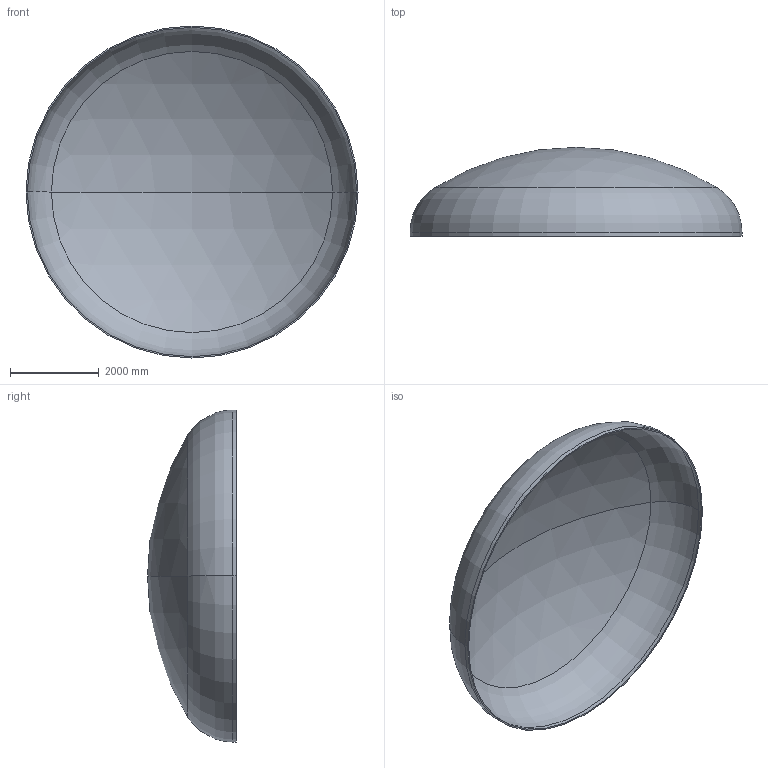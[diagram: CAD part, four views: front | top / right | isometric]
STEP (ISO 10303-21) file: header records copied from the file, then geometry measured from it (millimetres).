
FILE_DESCRIPTION (( 'STEP AP203' ), '1' );
FILE_NAME ('DIN 28013 Korbbogenform_-_Boden DIN 28013 - 7500 x 90 - I - s=30.step', '2016-07-04T10:52:54', ( '' ), ( '' ), 'SwSTEP 2.0', 'SolidWorks 2013', '' );
FILE_SCHEMA (( 'CONFIG_CONTROL_DESIGN' ));
Length unit declared in the file: millimetre
Products named in the file (1): DIN 28013 Korbbogenform_-_Boden DIN 28013 - 7500 x 90 - I - s=30
Bounding box: 7500 x 2009.67 x 7500 mm (x, y, z)
Volume: 1889378855.5 mm3; surface area: 126664455.6 mm2
Topology: 1 solids, 1 shells, 13 faces, 24 edges, 14 vertices
Faces by surface type: torus 4, cylinder 4, sphere 4, plane 1
Entity records: 407 total; most frequent: DIRECTION 72, CARTESIAN_POINT 52, ORIENTED_EDGE 48, AXIS2_PLACEMENT_3D 34, EDGE_CURVE 24, CIRCLE 20, EDGE_LOOP 14, VERTEX_POINT 14
